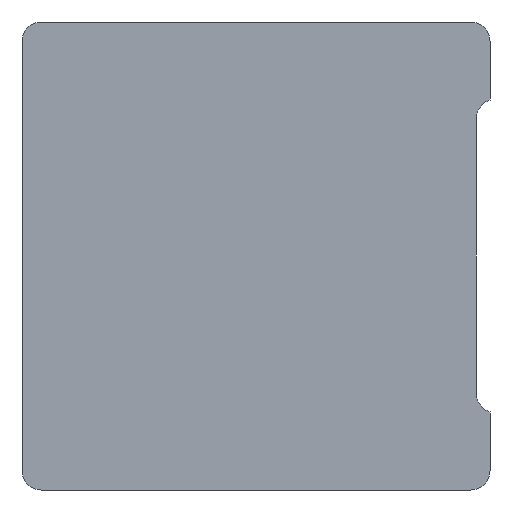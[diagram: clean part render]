
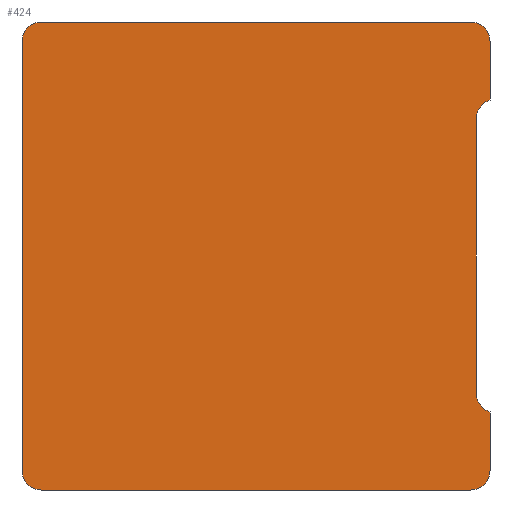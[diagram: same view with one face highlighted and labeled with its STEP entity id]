
A CAD part, front view. The second image highlights one B-rep face of the part: STEP entity #424.
In plain terms, the highlighted planar face has unit normal (0, -1, 0).
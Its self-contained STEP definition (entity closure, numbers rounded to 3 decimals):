
#20=CIRCLE('',#449,0.5);
#22=CIRCLE('',#453,0.5);
#24=CIRCLE('',#457,0.5);
#26=CIRCLE('',#461,0.5);
#28=CIRCLE('',#465,0.5);
#30=CIRCLE('',#469,0.5);
#118=ORIENTED_EDGE('',*,*,#170,.F.);
#119=ORIENTED_EDGE('',*,*,#204,.F.);
#120=ORIENTED_EDGE('',*,*,#201,.F.);
#121=ORIENTED_EDGE('',*,*,#198,.F.);
#122=ORIENTED_EDGE('',*,*,#195,.F.);
#123=ORIENTED_EDGE('',*,*,#192,.T.);
#124=ORIENTED_EDGE('',*,*,#189,.F.);
#125=ORIENTED_EDGE('',*,*,#186,.T.);
#126=ORIENTED_EDGE('',*,*,#183,.F.);
#127=ORIENTED_EDGE('',*,*,#180,.F.);
#128=ORIENTED_EDGE('',*,*,#177,.F.);
#129=ORIENTED_EDGE('',*,*,#174,.F.);
#170=EDGE_CURVE('',#230,#231,#270,.T.);
#174=EDGE_CURVE('',#231,#234,#20,.T.);
#177=EDGE_CURVE('',#234,#236,#275,.T.);
#180=EDGE_CURVE('',#236,#238,#22,.T.);
#183=EDGE_CURVE('',#238,#240,#279,.T.);
#186=EDGE_CURVE('',#242,#240,#24,.T.);
#189=EDGE_CURVE('',#242,#244,#283,.T.);
#192=EDGE_CURVE('',#246,#244,#26,.T.);
#195=EDGE_CURVE('',#246,#248,#287,.T.);
#198=EDGE_CURVE('',#248,#250,#28,.T.);
#201=EDGE_CURVE('',#250,#252,#291,.T.);
#204=EDGE_CURVE('',#252,#230,#30,.T.);
#230=VERTEX_POINT('',#621);
#231=VERTEX_POINT('',#622);
#234=VERTEX_POINT('',#630);
#236=VERTEX_POINT('',#636);
#238=VERTEX_POINT('',#642);
#240=VERTEX_POINT('',#648);
#242=VERTEX_POINT('',#654);
#244=VERTEX_POINT('',#660);
#246=VERTEX_POINT('',#666);
#248=VERTEX_POINT('',#672);
#250=VERTEX_POINT('',#678);
#252=VERTEX_POINT('',#684);
#270=LINE('',#620,#310);
#275=LINE('',#635,#315);
#279=LINE('',#647,#319);
#283=LINE('',#659,#323);
#287=LINE('',#671,#327);
#291=LINE('',#683,#331);
#310=VECTOR('',#494,1000.);
#315=VECTOR('',#507,1000.);
#319=VECTOR('',#519,1000.);
#323=VECTOR('',#531,1000.);
#327=VECTOR('',#543,1000.);
#331=VECTOR('',#555,1000.);
#364=EDGE_LOOP('',(#118,#119,#120,#121,#122,#123,#124,#125,#126,#127,#128,
#129));
#388=FACE_BOUND('',#364,.T.);
#405=PLANE('',#476);
#424=ADVANCED_FACE('',(#388),#405,.F.);
#449=AXIS2_PLACEMENT_3D('',#629,#500,#501);
#453=AXIS2_PLACEMENT_3D('',#641,#512,#513);
#457=AXIS2_PLACEMENT_3D('',#653,#524,#525);
#461=AXIS2_PLACEMENT_3D('',#665,#536,#537);
#465=AXIS2_PLACEMENT_3D('',#677,#548,#549);
#469=AXIS2_PLACEMENT_3D('',#689,#560,#561);
#476=AXIS2_PLACEMENT_3D('',#708,#578,#579);
#494=DIRECTION('',(0.,0.,1.));
#500=DIRECTION('',(0.,1.,0.));
#501=DIRECTION('',(1.,0.,0.));
#507=DIRECTION('',(1.,0.,0.));
#512=DIRECTION('',(0.,1.,0.));
#513=DIRECTION('',(1.,0.,0.));
#519=DIRECTION('',(0.,0.,-1.));
#524=DIRECTION('',(0.,1.,0.));
#525=DIRECTION('',(1.,0.,0.));
#531=DIRECTION('',(0.,0.,-1.));
#536=DIRECTION('',(0.,1.,0.));
#537=DIRECTION('',(1.,0.,0.));
#543=DIRECTION('',(0.,0.,-1.));
#548=DIRECTION('',(0.,1.,0.));
#549=DIRECTION('',(1.,0.,0.));
#555=DIRECTION('',(-1.,0.,0.));
#560=DIRECTION('',(0.,1.,0.));
#561=DIRECTION('',(1.,0.,0.));
#578=DIRECTION('',(0.,1.,0.));
#579=DIRECTION('',(0.,0.,1.));
#620=CARTESIAN_POINT('',(-6.,0.,-5.5));
#621=CARTESIAN_POINT('',(-6.,0.,-5.5));
#622=CARTESIAN_POINT('',(-6.,0.,5.5));
#629=CARTESIAN_POINT('',(-5.5,0.,5.5));
#630=CARTESIAN_POINT('',(-5.5,0.,6.));
#635=CARTESIAN_POINT('',(-5.5,0.,6.));
#636=CARTESIAN_POINT('',(5.5,0.,6.));
#641=CARTESIAN_POINT('',(5.5,0.,5.5));
#642=CARTESIAN_POINT('',(6.,0.,5.5));
#647=CARTESIAN_POINT('',(6.,0.,5.5));
#648=CARTESIAN_POINT('',(6.,0.,4.));
#653=CARTESIAN_POINT('',(6.15,0.,3.523));
#654=CARTESIAN_POINT('',(5.65,0.,3.523));
#659=CARTESIAN_POINT('',(5.65,0.,3.523));
#660=CARTESIAN_POINT('',(5.65,0.,-3.523));
#665=CARTESIAN_POINT('',(6.15,0.,-3.523));
#666=CARTESIAN_POINT('',(6.,0.,-4.));
#671=CARTESIAN_POINT('',(6.,0.,-4.));
#672=CARTESIAN_POINT('',(6.,0.,-5.5));
#677=CARTESIAN_POINT('',(5.5,0.,-5.5));
#678=CARTESIAN_POINT('',(5.5,0.,-6.));
#683=CARTESIAN_POINT('',(5.5,0.,-6.));
#684=CARTESIAN_POINT('',(-5.5,0.,-6.));
#689=CARTESIAN_POINT('',(-5.5,0.,-5.5));
#708=CARTESIAN_POINT('',(-5.5,0.,5.5));
